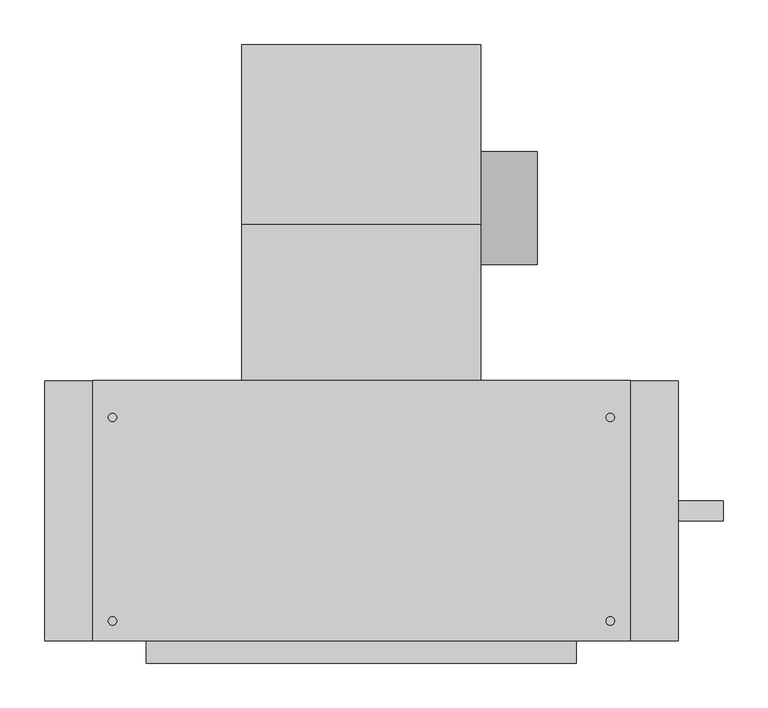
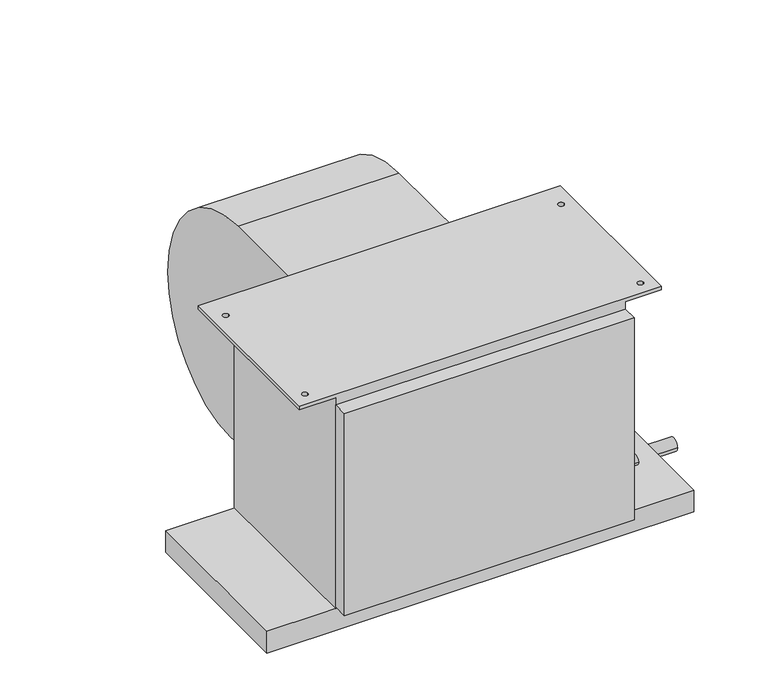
"""IFC4 building model written with IfcOpenShell, lengths in millimetres: proxy geometry, Concealed_High_Capacity_Horizontal_Fan_Coil_Unit_-_42DAA_-_CARRIER_-_4-Pipe_RH_2022 : Size 08 - 277v/60Hz/1Ph - 6/2 Coil."""

from ifc_helpers import new_model, si_unit, point, frame, frame_2d, origin, place, context, project, spatial, polyline, circle_curve, trimmed, segment, composite_curve, outline, extrude, source, transform, mapped, element, save
from ifc_brep_helpers import plane_surface, cylinder_surface, revolved_surface, advanced_brep


def mechanical_equipment_c1a056bd(model_context):
    return source(origin(), model_context, "Body", "SolidModel", [
        extrude(outline(composite_curve([segment(trimmed(circle_curve(frame_2d((117.8757598, -213.2397468)), 63.5), [point((181.3757598, -213.2397468))], [point((54.3757598, -213.2397468))], False, "CARTESIAN"), True, "CONTINUOUS"), segment(trimmed(circle_curve(frame_2d((117.8757598, -213.2397468)), 63.5), [point((54.3757598, -213.2397468))], [point((181.3757598, -213.2397468))], False, "CARTESIAN"), True, "CONTINUOUS")], self_intersect=False)), frame((413.512, 0.0, 0.0), z_axis=(1.0, 0.0, 0.0), x_axis=(0.0, 1.0, 0.0)), (0.0, 0.0, 1.0), 63.5),
        advanced_brep(
        [(145.288, 301.3905957, -228.379602), (145.288, 120.4976, -409.99664), (145.288, -35.0266, -283.45638), (145.288, -76.2, -283.45638), (145.288, -76.2, -25.4), (145.288, 98.8830093, -25.4), (413.512, 301.3905957, -228.379602), (413.512, 98.8830093, -25.4), (413.512, -76.2, -25.4), (413.512, -76.2, -283.45638), (413.512, -35.0266, -283.45638), (413.512, 120.497599, -409.9957839)],
        [
            (0, 1, circle_curve(frame((145.288, 120.31726, -228.92258), z_axis=(-1.0, 0.0, 0.0), x_axis=(0.0, -1.0, 0.0)), 181.0741498)),
            (1, 2, circle_curve(frame((145.288, 120.31726, -251.37364), z_axis=(-1.0, 0.0, 0.0), x_axis=(0.0, -1.0, 0.0)), 158.6222464)),
            (2, 3),
            (3, 4),
            (4, 5),
            (5, 0, circle_curve(frame((145.288, 97.8662, -228.92258), z_axis=(-1.0, 0.0, 0.0), x_axis=(0.0, -1.0, 0.0)), 203.52512)),
            (6, 7, circle_curve(frame((413.512, 97.8662, -228.92258), z_axis=(1.0, 0.0, 0.0), x_axis=(0.0, -1.0, 0.0)), 203.52512)),
            (7, 8),
            (8, 9),
            (9, 10),
            (10, 11, circle_curve(frame((413.512, 120.31726, -251.37364), z_axis=(1.0, 0.0, 0.0), x_axis=(0.0, -1.0, 0.0)), 158.6222464)),
            (11, 6, circle_curve(frame((413.512, 120.31726, -228.92258), z_axis=(1.0, 0.0, 0.0), x_axis=(0.0, -1.0, 0.0)), 181.0741498)),
            (0, 6),
            (11, 1),
            (10, 2),
            (9, 3),
            (8, 4),
            (7, 5),
        ],
        [
            plane_surface(frame((145.288, -60.7568898, -228.92258), z_axis=(-1.0, 0.0, 0.0), x_axis=(0.0, 0.0, 1.0))),
            plane_surface(frame((413.512, -60.7568898, -228.92258), z_axis=(1.0, 0.0, 0.0), x_axis=(0.0, 0.0, -1.0))),
            cylinder_surface(frame((413.512, 120.31726, -228.92258), z_axis=(-1.0, 0.0, 0.0), x_axis=(0.0, -1.0, 0.0)), 181.0741498),
            cylinder_surface(frame((413.512, 120.31726, -251.37364), z_axis=(-1.0, 0.0, 0.0), x_axis=(0.0, -1.0, 0.0)), 158.6222464),
            plane_surface(frame((145.288, -35.0266, -283.45638), z_axis=(0.0, 0.0, -1.0), x_axis=(1.0, 0.0, 0.0))),
            plane_surface(frame((145.288, -76.2, -283.45638), z_axis=(0.0, -1.0, 0.0), x_axis=(1.0, 0.0, 0.0))),
            plane_surface(frame((145.288, -76.2, -25.4), z_axis=(0.0, 0.0, 1.0), x_axis=(1.0, 0.0, 0.0))),
            cylinder_surface(frame((413.512, 97.8662, -228.92258), z_axis=(-1.0, 0.0, 0.0), x_axis=(0.0, -1.0, 0.0)), 203.52512),
        ],
        [
            (0, [[1, 2, 3, 4, 5, 6]]),
            (1, [[7, 8, 9, 10, 11, 12]]),
            (2, [[-1, 13, -12, 14]]),
            (3, [[-2, -14, -11, 15]]),
            (4, [[-3, -15, -10, 16]]),
            (5, [[-4, -16, -9, 17]]),
            (6, [[-5, -17, -8, 18]]),
            (7, [[-6, -18, -7, -13]]),
        ],
    ),
        extrude(outline(polyline([(635.0, -76.2), (635.0, -368.3), (-76.2, -368.3), (-76.2, -76.2), (635.0, -76.2)])), frame((0.0, 0.0, -415.925), z_axis=(0.0, 0.0, 1.0), x_axis=(1.0, 0.0, 0.0)), (0.0, 0.0, 1.0), 38.1),
        extrude(outline(polyline([(520.7, -393.7), (38.1, -393.7), (38.1, -368.3), (520.7, -368.3), (520.7, -393.7)])), frame((0.0, 0.0, -374.65), z_axis=(0.0, 0.0, 1.0), x_axis=(1.0, 0.0, 0.0)), (0.0, 0.0, 1.0), 355.6),
        extrude(outline(composite_curve([segment(trimmed(circle_curve(frame_2d((-222.25, -403.225)), 11.1125), [point((-233.3625, -403.225))], [point((-211.1375, -403.225))], False, "CARTESIAN"), True, "CONTINUOUS"), segment(trimmed(circle_curve(frame_2d((-222.25, -403.225)), 11.1125), [point((-211.1375, -403.225))], [point((-233.3625, -403.225))], False, "CARTESIAN"), True, "CONTINUOUS")], self_intersect=False)), frame((635.0, 0.0, 0.0), z_axis=(1.0, 0.0, 0.0), x_axis=(0.0, 1.0, 0.0)), (0.0, 0.0, 1.0), 50.8),
        extrude(outline(composite_curve([segment(trimmed(circle_curve(frame_2d((-187.325, -122.2375)), 11.1125), [point((-176.2125, -122.2375))], [point((-198.4375, -122.2375))], False, "CARTESIAN"), True, "CONTINUOUS"), segment(trimmed(circle_curve(frame_2d((-187.325, -122.2375)), 11.1125), [point((-198.4375, -122.2375))], [point((-176.2125, -122.2375))], False, "CARTESIAN"), True, "CONTINUOUS")], self_intersect=False)), frame((520.7, 0.0, 0.0), z_axis=(1.0, 0.0, 0.0), x_axis=(0.0, 1.0, 0.0)), (0.0, 0.0, 1.0), 50.8),
        extrude(outline(composite_curve([segment(trimmed(circle_curve(frame_2d((-269.875, -265.1125)), 11.1125), [point((-258.7625, -265.1125))], [point((-280.9875, -265.1125))], False, "CARTESIAN"), True, "CONTINUOUS"), segment(trimmed(circle_curve(frame_2d((-269.875, -265.1125)), 11.1125), [point((-280.9875, -265.1125))], [point((-258.7625, -265.1125))], False, "CARTESIAN"), True, "CONTINUOUS")], self_intersect=False)), frame((520.7, 0.0, 0.0), z_axis=(1.0, 0.0, 0.0), x_axis=(0.0, 1.0, 0.0)), (0.0, 0.0, 1.0), 50.8),
        extrude(outline(composite_curve([segment(trimmed(circle_curve(frame_2d((-311.15, -19.05)), 7.9375), [point((-303.2125, -19.05))], [point((-319.0875, -19.05))], False, "CARTESIAN"), True, "CONTINUOUS"), segment(trimmed(circle_curve(frame_2d((-311.15, -19.05)), 7.9375), [point((-319.0875, -19.05))], [point((-303.2125, -19.05))], False, "CARTESIAN"), True, "CONTINUOUS")], self_intersect=False)), frame((520.7, 0.0, 0.0), z_axis=(1.0, 0.0, 0.0), x_axis=(0.0, 1.0, 0.0)), (0.0, 0.0, 1.0), 50.8),
        extrude(outline(composite_curve([segment(trimmed(circle_curve(frame_2d((-311.15, -336.55)), 7.9375), [point((-303.2125, -336.55))], [point((-319.0875, -336.55))], False, "CARTESIAN"), True, "CONTINUOUS"), segment(trimmed(circle_curve(frame_2d((-311.15, -336.55)), 7.9375), [point((-319.0875, -336.55))], [point((-303.2125, -336.55))], False, "CARTESIAN"), True, "CONTINUOUS")], self_intersect=False)), frame((520.7, 0.0, 0.0), z_axis=(1.0, 0.0, 0.0), x_axis=(0.0, 1.0, 0.0)), (0.0, 0.0, 1.0), 50.8),
        advanced_brep(
        [(520.7, -76.2, -377.825), (520.7, -368.3, -377.825), (38.1, -368.3, -377.825), (38.1, -76.2, -377.825), (38.1, -368.3, -6.35), (38.1, -76.2, -6.35), (520.7, -76.2, -6.35), (520.7, -368.3, -6.35), (-22.225, -76.2, 0.0), (-22.225, -368.3, 0.0), (581.025, -368.3, 0.0), (581.025, -76.2, 0.0), (4.7625, -117.475, 0.0), (-4.7625, -117.475, 0.0), (4.7625, -346.075, 0.0), (-4.7625, -346.075, 0.0), (563.5625, -117.475, 0.0), (554.0375, -117.475, 0.0), (563.5625, -346.075, 0.0), (554.0375, -346.075, 0.0), (-22.225, -76.2, -6.35), (-22.225, -368.3, -6.35), (-4.7625, -117.475, -6.35), (4.7625, -117.475, -6.35), (-4.7625, -346.075, -6.35), (4.7625, -346.075, -6.35), (581.025, -76.2, -6.35), (581.025, -368.3, -6.35), (554.0375, -117.475, -6.35), (563.5625, -117.475, -6.35), (554.0375, -346.075, -6.35), (563.5625, -346.075, -6.35)],
        [
            (0, 1),
            (1, 2),
            (2, 3),
            (3, 0),
            (2, 4),
            (4, 5),
            (5, 3),
            (0, 6),
            (6, 7),
            (7, 1),
            (8, 9),
            (9, 10),
            (10, 11),
            (11, 8),
            (12, 13, circle_curve(frame((0.0, -117.475, 0.0), z_axis=(0.0, 0.0, -1.0), x_axis=(1.0, 0.0, 0.0)), 4.7625)),
            (13, 12, circle_curve(frame((0.0, -117.475, 0.0), z_axis=(0.0, 0.0, -1.0), x_axis=(1.0, 0.0, 0.0)), 4.7625)),
            (14, 15, circle_curve(frame((0.0, -346.075, 0.0), z_axis=(0.0, 0.0, -1.0), x_axis=(1.0, 0.0, 0.0)), 4.7625)),
            (15, 14, circle_curve(frame((0.0, -346.075, 0.0), z_axis=(0.0, 0.0, -1.0), x_axis=(1.0, 0.0, 0.0)), 4.7625)),
            (16, 17, circle_curve(frame((558.8, -117.475, 0.0), z_axis=(0.0, 0.0, -1.0), x_axis=(1.0, 0.0, 0.0)), 4.7625)),
            (17, 16, circle_curve(frame((558.8, -117.475, 0.0), z_axis=(0.0, 0.0, -1.0), x_axis=(1.0, 0.0, 0.0)), 4.7625)),
            (18, 19, circle_curve(frame((558.8, -346.075, 0.0), z_axis=(0.0, 0.0, -1.0), x_axis=(1.0, 0.0, 0.0)), 4.7625)),
            (19, 18, circle_curve(frame((558.8, -346.075, 0.0), z_axis=(0.0, 0.0, -1.0), x_axis=(1.0, 0.0, 0.0)), 4.7625)),
            (20, 5),
            (4, 21),
            (21, 20),
            (22, 23, circle_curve(frame((0.0, -117.475, -6.35), z_axis=(0.0, 0.0, 1.0), x_axis=(1.0, 0.0, 0.0)), 4.7625)),
            (23, 22, circle_curve(frame((0.0, -117.475, -6.35), z_axis=(0.0, 0.0, 1.0), x_axis=(1.0, 0.0, 0.0)), 4.7625)),
            (24, 25, circle_curve(frame((0.0, -346.075, -6.35), z_axis=(0.0, 0.0, 1.0), x_axis=(1.0, 0.0, 0.0)), 4.7625)),
            (25, 24, circle_curve(frame((0.0, -346.075, -6.35), z_axis=(0.0, 0.0, 1.0), x_axis=(1.0, 0.0, 0.0)), 4.7625)),
            (26, 27),
            (27, 7),
            (6, 26),
            (28, 29, circle_curve(frame((558.8, -117.475, -6.35), z_axis=(0.0, 0.0, 1.0), x_axis=(1.0, 0.0, 0.0)), 4.7625)),
            (29, 28, circle_curve(frame((558.8, -117.475, -6.35), z_axis=(0.0, 0.0, 1.0), x_axis=(1.0, 0.0, 0.0)), 4.7625)),
            (30, 31, circle_curve(frame((558.8, -346.075, -6.35), z_axis=(0.0, 0.0, 1.0), x_axis=(1.0, 0.0, 0.0)), 4.7625)),
            (31, 30, circle_curve(frame((558.8, -346.075, -6.35), z_axis=(0.0, 0.0, 1.0), x_axis=(1.0, 0.0, 0.0)), 4.7625)),
            (8, 20),
            (21, 9),
            (27, 10),
            (11, 26),
            (12, 23),
            (22, 13),
            (14, 25),
            (24, 15),
            (16, 29),
            (28, 17),
            (18, 31),
            (30, 19),
        ],
        [
            plane_surface(frame((38.1, -76.2, -377.825), z_axis=(0.0, 0.0, -1.0), x_axis=(1.0, 0.0, 0.0))),
            plane_surface(frame((38.1, -76.2, 0.0), z_axis=(-1.0, 0.0, 0.0), x_axis=(0.0, 0.0, -1.0))),
            plane_surface(frame((520.7, -368.3, 0.0), z_axis=(1.0, 0.0, 0.0), x_axis=(0.0, 0.0, -1.0))),
            plane_surface(frame((-22.225, -76.2, 0.0), z_axis=(0.0, 0.0, 1.0), x_axis=(0.0, -1.0, 0.0))),
            plane_surface(frame((-22.225, -76.2, -6.35), z_axis=(0.0, 0.0, -1.0), x_axis=(0.0, 1.0, 0.0))),
            plane_surface(frame((-22.225, -76.2, 0.0), z_axis=(-1.0, 0.0, 0.0), x_axis=(0.0, 0.0, -1.0))),
            plane_surface(frame((-22.225, -368.3, 0.0), z_axis=(0.0, -1.0, 0.0), x_axis=(0.0, 0.0, -1.0))),
            plane_surface(frame((38.1, -76.2, 0.0), z_axis=(0.0, 1.0, 0.0), x_axis=(0.0, 0.0, -1.0))),
            plane_surface(frame((581.025, -368.3, 0.0), z_axis=(1.0, 0.0, 0.0), x_axis=(0.0, 0.0, -1.0))),
            revolved_surface(polyline([(4.7625, -117.475, 0.0), (4.7625, -117.475, -6.35)]), (0.0, -117.475, -6.35), (0.0, 0.0, 1.0)),
            revolved_surface(polyline([(4.7625, -346.075, 0.0), (4.7625, -346.075, -6.35)]), (0.0, -346.075, 0.0), (0.0, 0.0, 1.0)),
            revolved_surface(polyline([(563.5625, -117.475, 0.0), (563.5625, -117.475, -6.35)]), (558.8, -117.475, 0.0), (0.0, 0.0, 1.0)),
            revolved_surface(polyline([(563.5625, -346.075, 0.0), (563.5625, -346.075, -6.35)]), (558.8, -346.075, 0.0), (0.0, 0.0, 1.0)),
        ],
        [
            (0, [[1, 2, 3, 4]]),
            (1, [[-3, 5, 6, 7]]),
            (2, [[-1, 8, 9, 10]]),
            (3, [[11, 12, 13, 14], [15, 16], [17, 18], [19, 20], [21, 22]]),
            (4, [[23, -6, 24, 25], [26, 27], [28, 29]]),
            (4, [[30, 31, -9, 32], [33, 34], [35, 36]]),
            (5, [[-11, 37, -25, 38]]),
            (6, [[-12, -38, -24, -5, -2, -10, -31, 39]]),
            (7, [[-14, 40, -32, -8, -4, -7, -23, -37]]),
            (8, [[-13, -39, -30, -40]]),
            (9, [[41, -26, 42, -15]]),
            (9, [[-41, -16, -42, -27]]),
            (10, [[43, -28, 44, -17]]),
            (10, [[-43, -18, -44, -29]]),
            (11, [[45, -33, 46, -19]]),
            (11, [[-45, -20, -46, -34]]),
            (12, [[47, -35, 48, -21]]),
            (12, [[-47, -22, -48, -36]]),
        ],
    ),
    ])


if __name__ == "__main__":
    model = new_model("IFC4")
    model_context = context("Model", 3, world=origin())
    ifc_project = project(units=[si_unit("LENGTHUNIT", "METRE", prefix="MILLI")], contexts=[model_context])
    site = spatial("IfcSite", under=ifc_project)
    building = spatial("IfcBuilding", under=site)
    placement = place(None, origin())
    mechanical_equipment_shape = mechanical_equipment_c1a056bd(model_context)
    element("IfcBuildingElementProxy", 1, Name="Concealed_High_Capacity_Horizontal_Fan_Coil_Unit_-_42DAA_-_CARRIER_-_4-Pipe_RH_2022 : Size 08 - 277v/60Hz/1Ph - 6/2 Coil", ObjectType="Concealed_High_Capacity_Horizontal_Fan_Coil_Unit_-_42DAA_-_CARRIER_-_4-Pipe_RH_2022 : Size 08 - 277v/60Hz/1Ph - 6/2 Coil", at=placement, inside=building, context=model_context, shape_type="MappedRepresentation", body=[
        mapped(mechanical_equipment_shape, transform((0.0, 0.0, 0.0), x_axis=(1.0, 0.0, 0.0), y_axis=(0.0, 1.0, 0.0), z_axis=(0.0, 0.0, 1.0))),
    ])
    save(model, "model.ifc")
